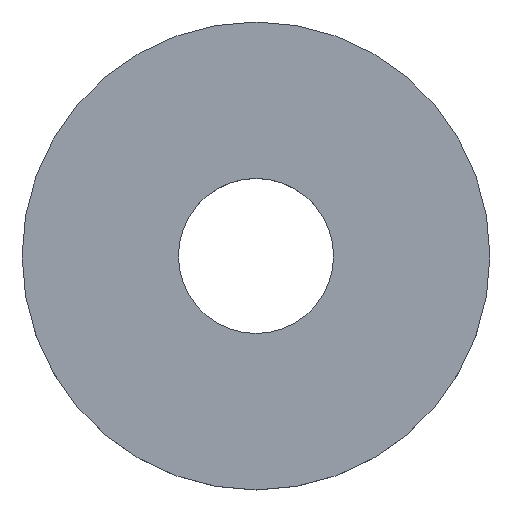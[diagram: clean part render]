
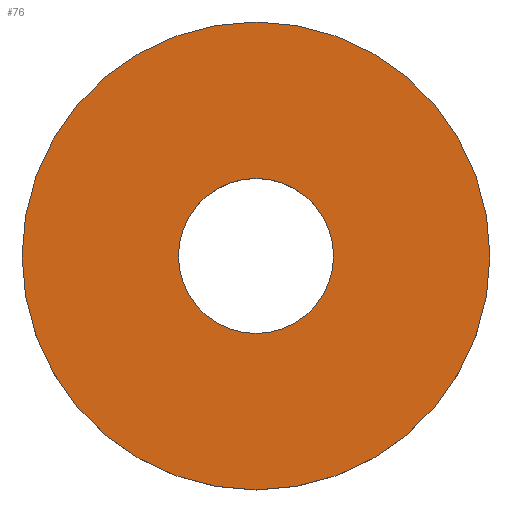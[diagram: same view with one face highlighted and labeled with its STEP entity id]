
A CAD part, top view. The second image highlights one B-rep face of the part: STEP entity #76.
In plain terms, the highlighted planar face has unit normal (0, 0, 1).
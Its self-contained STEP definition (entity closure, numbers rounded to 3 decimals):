
#22 = VERTEX_POINT('',#23);
#23 = CARTESIAN_POINT('',(13.639,0.,4.119));
#31 = EDGE_CURVE('',#22,#22,#32,.T.);
#32 = CIRCLE('',#33,13.639);
#33 = AXIS2_PLACEMENT_3D('',#34,#35,#36);
#34 = CARTESIAN_POINT('',(0.,0.,4.119));
#35 = DIRECTION('',(0.,0.,-1.));
#36 = DIRECTION('',(1.,0.,0.));
#76 = ADVANCED_FACE('',(#77,#88),#91,.F.);
#77 = FACE_BOUND('',#78,.T.);
#78 = EDGE_LOOP('',(#79));
#79 = ORIENTED_EDGE('',*,*,#80,.T.);
#80 = EDGE_CURVE('',#81,#81,#83,.T.);
#81 = VERTEX_POINT('',#82);
#82 = CARTESIAN_POINT('',(4.521,0.,4.119));
#83 = CIRCLE('',#84,4.521);
#84 = AXIS2_PLACEMENT_3D('',#85,#86,#87);
#85 = CARTESIAN_POINT('',(0.,0.,4.119));
#86 = DIRECTION('',(0.,0.,-1.));
#87 = DIRECTION('',(1.,0.,0.));
#88 = FACE_BOUND('',#89,.T.);
#89 = EDGE_LOOP('',(#90));
#90 = ORIENTED_EDGE('',*,*,#31,.F.);
#91 = PLANE('',#92);
#92 = AXIS2_PLACEMENT_3D('',#93,#94,#95);
#93 = CARTESIAN_POINT('',(0.,0.,4.119));
#94 = DIRECTION('',(0.,0.,-1.));
#95 = DIRECTION('',(1.,0.,0.));
